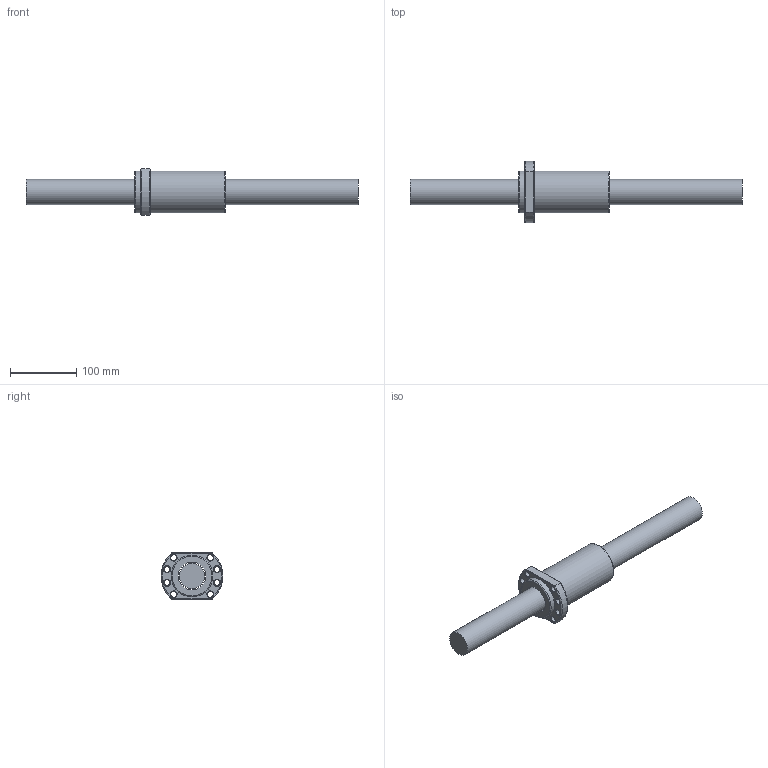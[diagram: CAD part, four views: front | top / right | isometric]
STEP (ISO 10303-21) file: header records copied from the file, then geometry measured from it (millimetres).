
FILE_DESCRIPTION (( 'STEP AP203' ), '1' );
FILE_NAME ('SFA4040-2.8.step', '2024-05-07T07:26:12', ( '' ), ( '' ), 'SwSTEP 2.0', 'SolidWorks 2022', '' );
FILE_SCHEMA (( 'CONFIG_CONTROL_DESIGN' ));
Length unit declared in the file: millimetre
Products named in the file (1): SFA4040-2.8
Bounding box: 500 x 93 x 70 mm (x, y, z)
Volume: 834919.7 mm3; surface area: 118602.2 mm2
Topology: 2 solids, 2 shells, 63 faces, 152 edges, 95 vertices
Faces by surface type: cylinder 22, cone 17, plane 13, torus 6, bspline 5
Full cylindrical faces by diameter (mm): 4 x1, 7 x6, 9 x8, 38 x1, 41.7 x1, 63 x2
Entity records: 3425 total; most frequent: CARTESIAN_POINT 2212, DIRECTION 226, ORIENTED_EDGE 188, EDGE_LOOP 112, AXIS2_PLACEMENT_3D 105, EDGE_CURVE 94, VERTEX_POINT 78, FACE_OUTER_BOUND 73
